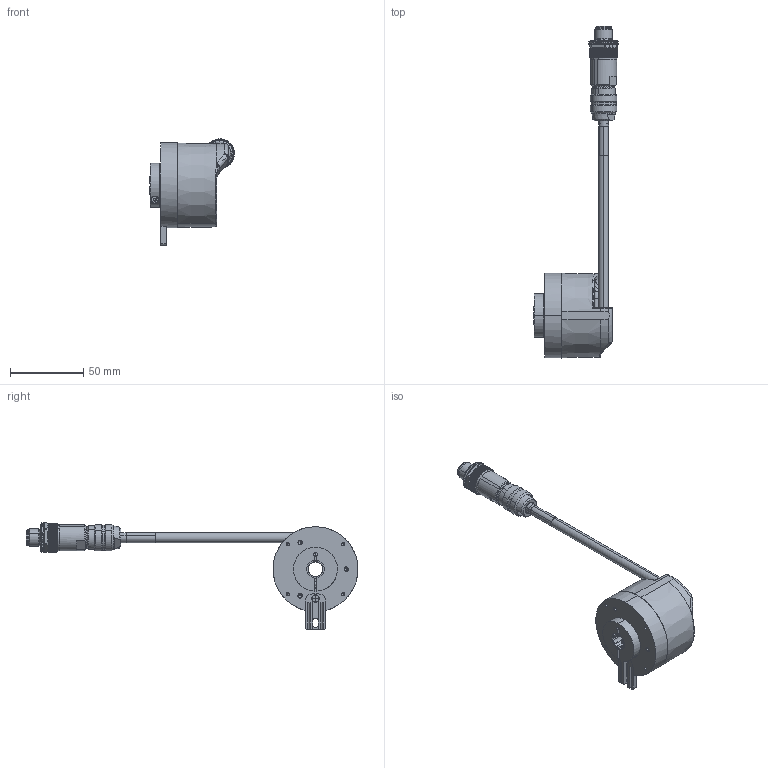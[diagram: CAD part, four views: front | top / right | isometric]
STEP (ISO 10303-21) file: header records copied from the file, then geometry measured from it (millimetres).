
FILE_DESCRIPTION (( 'STEP AP203' ), '1' );
FILE_NAME ('K58I.OXX.XXXXX.XH11510.6XT13.XXXX.step', '2025-12-08T12:42:48', ( '' ), ( '' ), 'SwSTEP 2.0', 'SolidWorks 2021', '' );
FILE_SCHEMA (( 'CONFIG_CONTROL_DESIGN' ));
Length unit declared in the file: millimetre
Products named in the file (1): K58I.OXX.XXXXX.XH11510.6XT13.XXXX
Bounding box: 57.88 x 226.59 x 72.49 mm (x, y, z)
Volume: 116886.3 mm3; surface area: 41994.7 mm2
Topology: 19 solids, 24 shells, 1496 faces, 3653 edges, 2215 vertices
Faces by surface type: plane 571, cylinder 464, cone 321, bspline 72, torus 53, sphere 15
Entity records: 48283 total; most frequent: CARTESIAN_POINT 14229, ORIENTED_EDGE 7236, DIRECTION 6993, EDGE_CURVE 3618, AXIS2_PLACEMENT_3D 2787, VERTEX_POINT 2215, EDGE_LOOP 1565, FACE_OUTER_BOUND 1496
